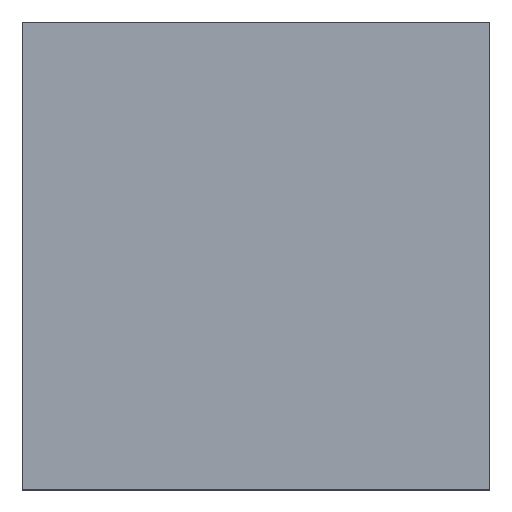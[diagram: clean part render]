
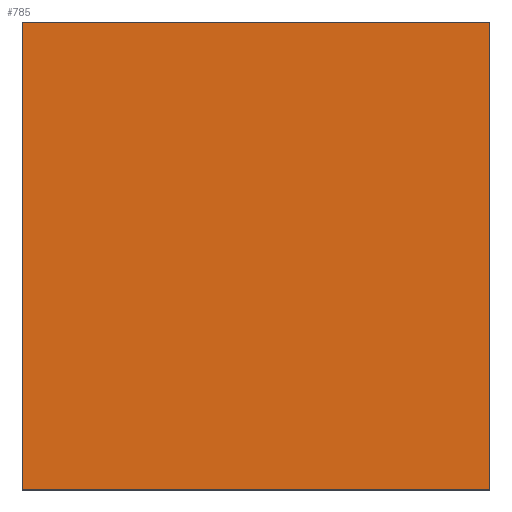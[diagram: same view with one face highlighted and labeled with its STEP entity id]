
A CAD part, top view. The second image highlights one B-rep face of the part: STEP entity #785.
In plain terms, the highlighted planar face has unit normal (0, 0, 1).
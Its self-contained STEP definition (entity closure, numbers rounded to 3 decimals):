
#7 = LINE ( 'NONE', #619, #855 ) ;
#12 = EDGE_CURVE ( 'NONE', #234, #531, #7, .T. ) ;
#16 = AXIS2_PLACEMENT_3D ( 'NONE', #293, #594, #957 ) ;
#25 = CARTESIAN_POINT ( 'NONE',  ( 0., 0., 12.5 ) ) ;
#86 = LINE ( 'NONE', #763, #885 ) ;
#94 = EDGE_CURVE ( 'NONE', #750, #234, #198, .T. ) ;
#145 = ORIENTED_EDGE ( 'NONE', *, *, #272, .T. ) ;
#198 = LINE ( 'NONE', #736, #951 ) ;
#205 = CARTESIAN_POINT ( 'NONE',  ( 0., 38., 12.5 ) ) ;
#234 = VERTEX_POINT ( 'NONE', #541 ) ;
#258 = LINE ( 'NONE', #567, #553 ) ;
#272 = EDGE_CURVE ( 'NONE', #445, #750, #86, .T. ) ;
#293 = CARTESIAN_POINT ( 'NONE',  ( 0., 0., 12.5 ) ) ;
#294 = ORIENTED_EDGE ( 'NONE', *, *, #12, .T. ) ;
#328 = ORIENTED_EDGE ( 'NONE', *, *, #484, .T. ) ;
#331 = DIRECTION ( 'NONE',  ( -1., 0., 0. ) ) ;
#437 = DIRECTION ( 'NONE',  ( 0., 1., 0. ) ) ;
#445 = VERTEX_POINT ( 'NONE', #25 ) ;
#484 = EDGE_CURVE ( 'NONE', #531, #445, #258, .T. ) ;
#513 = FACE_OUTER_BOUND ( 'NONE', #682, .T. ) ;
#531 = VERTEX_POINT ( 'NONE', #205 ) ;
#541 = CARTESIAN_POINT ( 'NONE',  ( 38., 38., 12.5 ) ) ;
#553 = VECTOR ( 'NONE', #628, 1000. ) ;
#567 = CARTESIAN_POINT ( 'NONE',  ( 0., 0., 12.5 ) ) ;
#580 = CARTESIAN_POINT ( 'NONE',  ( 38., 0., 12.5 ) ) ;
#594 = DIRECTION ( 'NONE',  ( 0., 0., -1. ) ) ;
#619 = CARTESIAN_POINT ( 'NONE',  ( 0., 38., 12.5 ) ) ;
#628 = DIRECTION ( 'NONE',  ( 0., -1., 0. ) ) ;
#682 = EDGE_LOOP ( 'NONE', ( #328, #145, #916, #294 ) ) ;
#736 = CARTESIAN_POINT ( 'NONE',  ( 38., 0., 12.5 ) ) ;
#750 = VERTEX_POINT ( 'NONE', #580 ) ;
#754 = PLANE ( 'NONE',  #16 ) ;
#763 = CARTESIAN_POINT ( 'NONE',  ( 0., 0., 12.5 ) ) ;
#785 = ADVANCED_FACE ( 'NONE', ( #513 ), #754, .F. ) ;
#855 = VECTOR ( 'NONE', #331, 1000. ) ;
#885 = VECTOR ( 'NONE', #923, 1000. ) ;
#916 = ORIENTED_EDGE ( 'NONE', *, *, #94, .T. ) ;
#923 = DIRECTION ( 'NONE',  ( 1., 0., 0. ) ) ;
#951 = VECTOR ( 'NONE', #437, 1000. ) ;
#957 = DIRECTION ( 'NONE',  ( -1., 0., 0. ) ) ;
